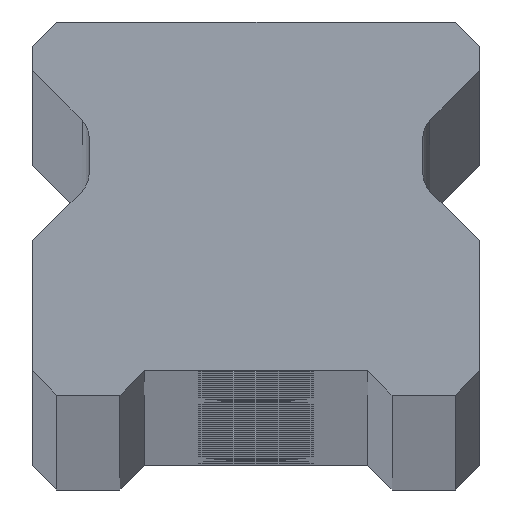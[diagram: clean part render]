
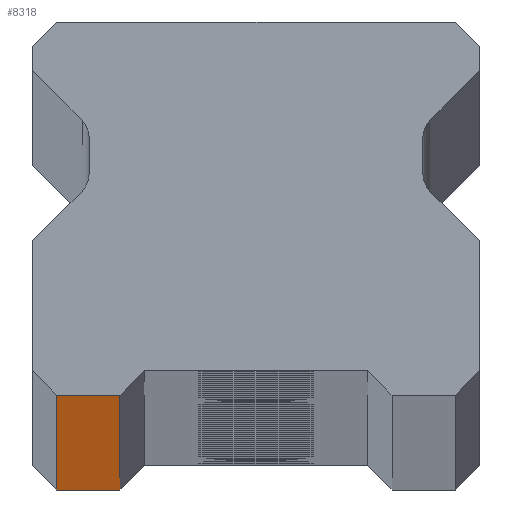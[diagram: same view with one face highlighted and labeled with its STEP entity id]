
A CAD part, top view. The second image highlights one B-rep face of the part: STEP entity #8318.
In plain terms, the highlighted planar face has unit normal (0, -1, 0).
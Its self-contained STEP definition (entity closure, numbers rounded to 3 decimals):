
#191 = LINE ( 'NONE', #5803, #4668 ) ;
#219 = CARTESIAN_POINT ( 'NONE',  ( 11.5, 0., 1400. ) ) ;
#733 = CARTESIAN_POINT ( 'NONE',  ( -10.25, 0., -1400. ) ) ;
#890 = ORIENTED_EDGE ( 'NONE', *, *, #4970, .F. ) ;
#2002 = DIRECTION ( 'NONE',  ( 0., 0., -1. ) ) ;
#2404 = VERTEX_POINT ( 'NONE', #3045 ) ;
#2450 = ORIENTED_EDGE ( 'NONE', *, *, #2846, .T. ) ;
#2544 = CARTESIAN_POINT ( 'NONE',  ( -7., 0., -1400. ) ) ;
#2846 = EDGE_CURVE ( 'NONE', #2404, #8047, #6472, .T. ) ;
#3045 = CARTESIAN_POINT ( 'NONE',  ( -10.25, 0., 1400. ) ) ;
#3215 = DIRECTION ( 'NONE',  ( 1., 0., 0. ) ) ;
#3475 = CARTESIAN_POINT ( 'NONE',  ( 11.5, 0., 1400. ) ) ;
#3957 = VECTOR ( 'NONE', #3215, 1000. ) ;
#4668 = VECTOR ( 'NONE', #5122, 1000. ) ;
#4848 = VERTEX_POINT ( 'NONE', #2544 ) ;
#4884 = DIRECTION ( 'NONE',  ( 1., 0., 0. ) ) ;
#4970 = EDGE_CURVE ( 'NONE', #2404, #7843, #7807, .T. ) ;
#5122 = DIRECTION ( 'NONE',  ( 0., 0., 1. ) ) ;
#5298 = VECTOR ( 'NONE', #2002, 1000. ) ;
#5401 = DIRECTION ( 'NONE',  ( 0., 1., 0. ) ) ;
#5803 = CARTESIAN_POINT ( 'NONE',  ( -7., 0., -1400. ) ) ;
#5841 = VECTOR ( 'NONE', #4884, 1000. ) ;
#5868 = CARTESIAN_POINT ( 'NONE',  ( -7., 0., 1400. ) ) ;
#5913 = LINE ( 'NONE', #7610, #3957 ) ;
#6010 = EDGE_CURVE ( 'NONE', #4848, #7843, #191, .T. ) ;
#6425 = ORIENTED_EDGE ( 'NONE', *, *, #8876, .T. ) ;
#6472 = LINE ( 'NONE', #9069, #5298 ) ;
#6968 = EDGE_LOOP ( 'NONE', ( #6425, #7138, #890, #2450 ) ) ;
#7138 = ORIENTED_EDGE ( 'NONE', *, *, #6010, .T. ) ;
#7166 = AXIS2_PLACEMENT_3D ( 'NONE', #219, #5401, #9112 ) ;
#7173 = FACE_OUTER_BOUND ( 'NONE', #6968, .T. ) ;
#7610 = CARTESIAN_POINT ( 'NONE',  ( 11.5, 0., -1400. ) ) ;
#7649 = PLANE ( 'NONE',  #7166 ) ;
#7807 = LINE ( 'NONE', #3475, #5841 ) ;
#7843 = VERTEX_POINT ( 'NONE', #5868 ) ;
#8047 = VERTEX_POINT ( 'NONE', #733 ) ;
#8318 = ADVANCED_FACE ( 'NONE', ( #7173 ), #7649, .F. ) ;
#8876 = EDGE_CURVE ( 'NONE', #8047, #4848, #5913, .T. ) ;
#9069 = CARTESIAN_POINT ( 'NONE',  ( -10.25, 0., 1400. ) ) ;
#9112 = DIRECTION ( 'NONE',  ( -1., 0., 0. ) ) ;
